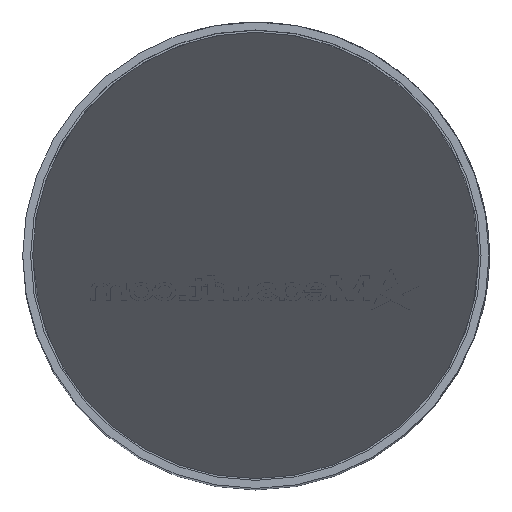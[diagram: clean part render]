
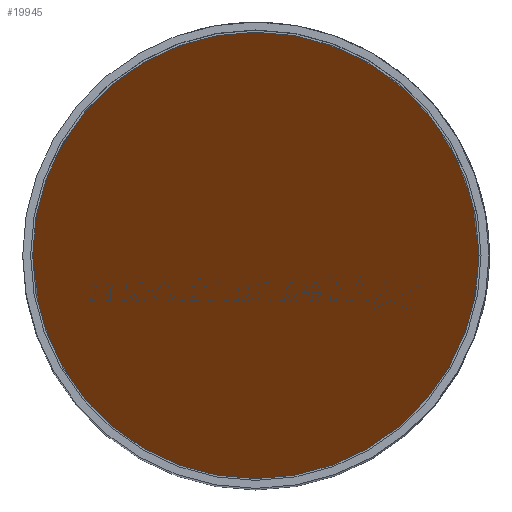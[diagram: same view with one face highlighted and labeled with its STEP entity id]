
A CAD part, top view. The second image highlights one B-rep face of the part: STEP entity #19945.
In plain terms, the highlighted planar face has unit normal (0, -0.707, 0.707).
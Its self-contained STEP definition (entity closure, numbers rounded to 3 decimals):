
#6848 = AXIS2_PLACEMENT_3D ( 'NONE', #70857, #77932, #20642 ) ;
#7181 = VERTEX_POINT ( 'NONE', #59983 ) ;
#11360 = CARTESIAN_POINT ( 'NONE',  ( 335., -670., 32.828 ) ) ;
#13640 =( BOUNDED_CURVE ( )  B_SPLINE_CURVE ( 3, ( #69481, #20105, #38448, #38020 ),
 .UNSPECIFIED., .F., .T. ) 
 B_SPLINE_CURVE_WITH_KNOTS ( ( 4, 4 ),
 ( 1.571, 4.712 ),
 .UNSPECIFIED. ) 
 CURVE ( )  GEOMETRIC_REPRESENTATION_ITEM ( )  RATIONAL_B_SPLINE_CURVE ( ( 1., 0.333, 0.333, 1. ) ) 
 REPRESENTATION_ITEM ( '' )  );
#16277 =( BOUNDED_CURVE ( )  B_SPLINE_CURVE ( 3, ( #37151, #17630, #11360, #56454 ),
 .UNSPECIFIED., .F., .T. ) 
 B_SPLINE_CURVE_WITH_KNOTS ( ( 4, 4 ),
 ( 4.712, 7.854 ),
 .UNSPECIFIED. ) 
 CURVE ( )  GEOMETRIC_REPRESENTATION_ITEM ( )  RATIONAL_B_SPLINE_CURVE ( ( 1., 0.333, 0.333, 1. ) ) 
 REPRESENTATION_ITEM ( '' )  );
#17630 = CARTESIAN_POINT ( 'NONE',  ( -335., -670., 32.828 ) ) ;
#19945 = ADVANCED_FACE ( 'NONE', ( #57023 ), #52398, .F. ) ;
#20105 = CARTESIAN_POINT ( 'NONE',  ( 335., 670., 1372.828 ) ) ;
#20642 = DIRECTION ( 'NONE',  ( 0., 0.707, 0.707 ) ) ;
#23831 = EDGE_LOOP ( 'NONE', ( #73594, #39930 ) ) ;
#27111 = EDGE_CURVE ( 'NONE', #50039, #7181, #13640, .T. ) ;
#37151 = CARTESIAN_POINT ( 'NONE',  ( -335., 0., 702.828 ) ) ;
#38020 = CARTESIAN_POINT ( 'NONE',  ( -335., 0., 702.828 ) ) ;
#38448 = CARTESIAN_POINT ( 'NONE',  ( -335., 670., 1372.828 ) ) ;
#39930 = ORIENTED_EDGE ( 'NONE', *, *, #27111, .T. ) ;
#50039 = VERTEX_POINT ( 'NONE', #56686 ) ;
#52398 = PLANE ( 'NONE',  #6848 ) ;
#56454 = CARTESIAN_POINT ( 'NONE',  ( 335., 0., 702.828 ) ) ;
#56686 = CARTESIAN_POINT ( 'NONE',  ( 335., 0., 702.828 ) ) ;
#57023 = FACE_OUTER_BOUND ( 'NONE', #23831, .T. ) ;
#57705 = EDGE_CURVE ( 'NONE', #7181, #50039, #16277, .T. ) ;
#59983 = CARTESIAN_POINT ( 'NONE',  ( -335., 0., 702.828 ) ) ;
#69481 = CARTESIAN_POINT ( 'NONE',  ( 335., 0., 702.828 ) ) ;
#70857 = CARTESIAN_POINT ( 'NONE',  ( 1110.376, -351.414, 351.414 ) ) ;
#73594 = ORIENTED_EDGE ( 'NONE', *, *, #57705, .T. ) ;
#77932 = DIRECTION ( 'NONE',  ( 0., 0.707, -0.707 ) ) ;
